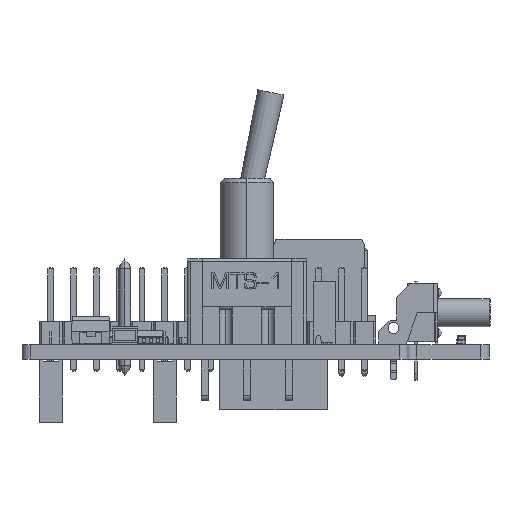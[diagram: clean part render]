
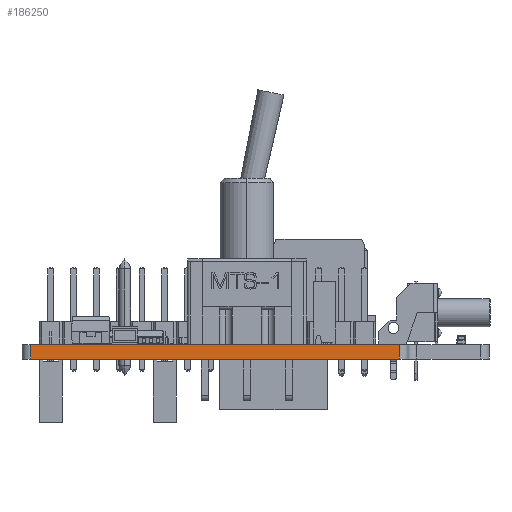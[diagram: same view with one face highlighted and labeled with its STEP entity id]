
A CAD part, left-side view. The second image highlights one B-rep face of the part: STEP entity #186250.
In plain terms, the highlighted planar face has unit normal (-1, 0, 0).
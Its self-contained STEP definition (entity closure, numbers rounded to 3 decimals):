
#186250 = ADVANCED_FACE('',(#186251),#186265,.F.);
#186251 = FACE_BOUND('',#186252,.F.);
#186252 = EDGE_LOOP('',(#186253,#186288,#186316,#186344));
#186253 = ORIENTED_EDGE('',*,*,#186254,.T.);
#186254 = EDGE_CURVE('',#186255,#186257,#186259,.T.);
#186255 = VERTEX_POINT('',#186256);
#186256 = CARTESIAN_POINT('',(44.97,-114.,0.));
#186257 = VERTEX_POINT('',#186258);
#186258 = CARTESIAN_POINT('',(44.97,-114.,1.6));
#186259 = SURFACE_CURVE('',#186260,(#186264,#186276),.PCURVE_S1.);
#186260 = LINE('',#186261,#186262);
#186261 = CARTESIAN_POINT('',(44.97,-114.,0.));
#186262 = VECTOR('',#186263,1.);
#186263 = DIRECTION('',(0.,0.,1.));
#186264 = PCURVE('',#186265,#186270);
#186265 = PLANE('',#186266);
#186266 = AXIS2_PLACEMENT_3D('',#186267,#186268,#186269);
#186267 = CARTESIAN_POINT('',(44.97,-114.,0.));
#186268 = DIRECTION('',(1.,0.,-0.));
#186269 = DIRECTION('',(0.,-1.,0.));
#186270 = DEFINITIONAL_REPRESENTATION('',(#186271),#186275);
#186271 = LINE('',#186272,#186273);
#186272 = CARTESIAN_POINT('',(0.,0.));
#186273 = VECTOR('',#186274,1.);
#186274 = DIRECTION('',(0.,-1.));
#186275 = ( GEOMETRIC_REPRESENTATION_CONTEXT(2) 
PARAMETRIC_REPRESENTATION_CONTEXT() REPRESENTATION_CONTEXT('2D SPACE',''
  ) );
#186276 = PCURVE('',#186277,#186282);
#186277 = CYLINDRICAL_SURFACE('',#186278,1.);
#186278 = AXIS2_PLACEMENT_3D('',#186279,#186280,#186281);
#186279 = CARTESIAN_POINT('',(45.97,-114.,0.));
#186280 = DIRECTION('',(-0.,-0.,-1.));
#186281 = DIRECTION('',(1.,0.,-0.));
#186282 = DEFINITIONAL_REPRESENTATION('',(#186283),#186287);
#186283 = LINE('',#186284,#186285);
#186284 = CARTESIAN_POINT('',(-3.142,0.));
#186285 = VECTOR('',#186286,1.);
#186286 = DIRECTION('',(-0.,-1.));
#186287 = ( GEOMETRIC_REPRESENTATION_CONTEXT(2) 
PARAMETRIC_REPRESENTATION_CONTEXT() REPRESENTATION_CONTEXT('2D SPACE',''
  ) );
#186288 = ORIENTED_EDGE('',*,*,#186289,.T.);
#186289 = EDGE_CURVE('',#186257,#186290,#186292,.T.);
#186290 = VERTEX_POINT('',#186291);
#186291 = CARTESIAN_POINT('',(44.97,-154.975,1.6));
#186292 = SURFACE_CURVE('',#186293,(#186297,#186304),.PCURVE_S1.);
#186293 = LINE('',#186294,#186295);
#186294 = CARTESIAN_POINT('',(44.97,-114.,1.6));
#186295 = VECTOR('',#186296,1.);
#186296 = DIRECTION('',(0.,-1.,0.));
#186297 = PCURVE('',#186265,#186298);
#186298 = DEFINITIONAL_REPRESENTATION('',(#186299),#186303);
#186299 = LINE('',#186300,#186301);
#186300 = CARTESIAN_POINT('',(0.,-1.6));
#186301 = VECTOR('',#186302,1.);
#186302 = DIRECTION('',(1.,0.));
#186303 = ( GEOMETRIC_REPRESENTATION_CONTEXT(2) 
PARAMETRIC_REPRESENTATION_CONTEXT() REPRESENTATION_CONTEXT('2D SPACE',''
  ) );
#186304 = PCURVE('',#186305,#186310);
#186305 = PLANE('',#186306);
#186306 = AXIS2_PLACEMENT_3D('',#186307,#186308,#186309);
#186307 = CARTESIAN_POINT('',(81.972,-138.186,1.6));
#186308 = DIRECTION('',(0.,0.,1.));
#186309 = DIRECTION('',(1.,0.,-0.));
#186310 = DEFINITIONAL_REPRESENTATION('',(#186311),#186315);
#186311 = LINE('',#186312,#186313);
#186312 = CARTESIAN_POINT('',(-37.002,24.186));
#186313 = VECTOR('',#186314,1.);
#186314 = DIRECTION('',(0.,-1.));
#186315 = ( GEOMETRIC_REPRESENTATION_CONTEXT(2) 
PARAMETRIC_REPRESENTATION_CONTEXT() REPRESENTATION_CONTEXT('2D SPACE',''
  ) );
#186316 = ORIENTED_EDGE('',*,*,#186317,.F.);
#186317 = EDGE_CURVE('',#186318,#186290,#186320,.T.);
#186318 = VERTEX_POINT('',#186319);
#186319 = CARTESIAN_POINT('',(44.97,-154.975,0.));
#186320 = SURFACE_CURVE('',#186321,(#186325,#186332),.PCURVE_S1.);
#186321 = LINE('',#186322,#186323);
#186322 = CARTESIAN_POINT('',(44.97,-154.975,0.));
#186323 = VECTOR('',#186324,1.);
#186324 = DIRECTION('',(0.,0.,1.));
#186325 = PCURVE('',#186265,#186326);
#186326 = DEFINITIONAL_REPRESENTATION('',(#186327),#186331);
#186327 = LINE('',#186328,#186329);
#186328 = CARTESIAN_POINT('',(40.975,0.));
#186329 = VECTOR('',#186330,1.);
#186330 = DIRECTION('',(0.,-1.));
#186331 = ( GEOMETRIC_REPRESENTATION_CONTEXT(2) 
PARAMETRIC_REPRESENTATION_CONTEXT() REPRESENTATION_CONTEXT('2D SPACE',''
  ) );
#186332 = PCURVE('',#186333,#186338);
#186333 = CYLINDRICAL_SURFACE('',#186334,1.);
#186334 = AXIS2_PLACEMENT_3D('',#186335,#186336,#186337);
#186335 = CARTESIAN_POINT('',(45.97,-154.975,0.));
#186336 = DIRECTION('',(-0.,-0.,-1.));
#186337 = DIRECTION('',(1.,0.,-0.));
#186338 = DEFINITIONAL_REPRESENTATION('',(#186339),#186343);
#186339 = LINE('',#186340,#186341);
#186340 = CARTESIAN_POINT('',(-3.142,0.));
#186341 = VECTOR('',#186342,1.);
#186342 = DIRECTION('',(-0.,-1.));
#186343 = ( GEOMETRIC_REPRESENTATION_CONTEXT(2) 
PARAMETRIC_REPRESENTATION_CONTEXT() REPRESENTATION_CONTEXT('2D SPACE',''
  ) );
#186344 = ORIENTED_EDGE('',*,*,#186345,.F.);
#186345 = EDGE_CURVE('',#186255,#186318,#186346,.T.);
#186346 = SURFACE_CURVE('',#186347,(#186351,#186358),.PCURVE_S1.);
#186347 = LINE('',#186348,#186349);
#186348 = CARTESIAN_POINT('',(44.97,-114.,0.));
#186349 = VECTOR('',#186350,1.);
#186350 = DIRECTION('',(0.,-1.,0.));
#186351 = PCURVE('',#186265,#186352);
#186352 = DEFINITIONAL_REPRESENTATION('',(#186353),#186357);
#186353 = LINE('',#186354,#186355);
#186354 = CARTESIAN_POINT('',(0.,0.));
#186355 = VECTOR('',#186356,1.);
#186356 = DIRECTION('',(1.,0.));
#186357 = ( GEOMETRIC_REPRESENTATION_CONTEXT(2) 
PARAMETRIC_REPRESENTATION_CONTEXT() REPRESENTATION_CONTEXT('2D SPACE',''
  ) );
#186358 = PCURVE('',#186359,#186364);
#186359 = PLANE('',#186360);
#186360 = AXIS2_PLACEMENT_3D('',#186361,#186362,#186363);
#186361 = CARTESIAN_POINT('',(81.972,-138.186,0.));
#186362 = DIRECTION('',(0.,0.,1.));
#186363 = DIRECTION('',(1.,0.,-0.));
#186364 = DEFINITIONAL_REPRESENTATION('',(#186365),#186369);
#186365 = LINE('',#186366,#186367);
#186366 = CARTESIAN_POINT('',(-37.002,24.186));
#186367 = VECTOR('',#186368,1.);
#186368 = DIRECTION('',(0.,-1.));
#186369 = ( GEOMETRIC_REPRESENTATION_CONTEXT(2) 
PARAMETRIC_REPRESENTATION_CONTEXT() REPRESENTATION_CONTEXT('2D SPACE',''
  ) );
